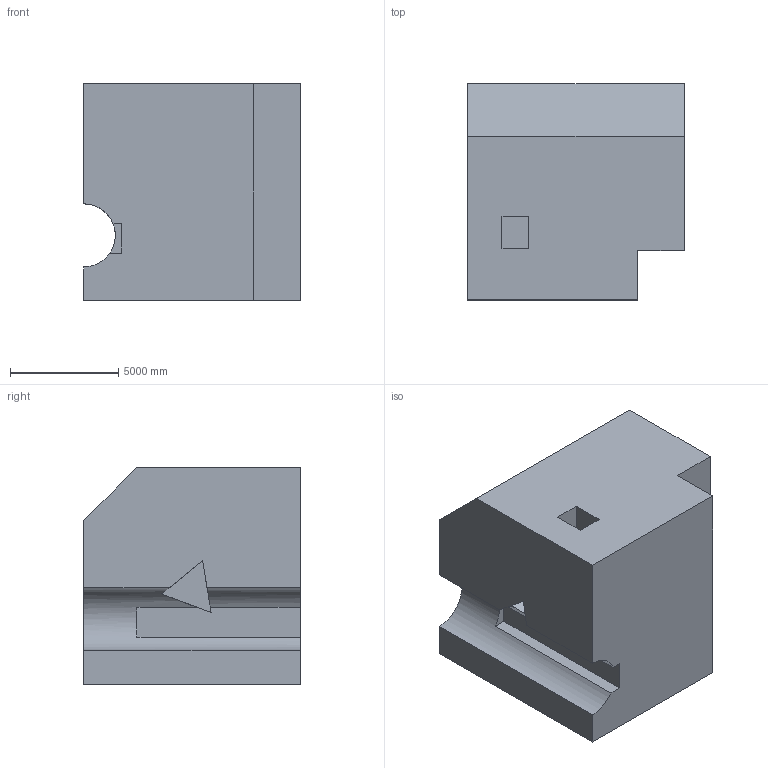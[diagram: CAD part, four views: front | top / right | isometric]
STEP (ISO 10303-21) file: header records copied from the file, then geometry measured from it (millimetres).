
FILE_DESCRIPTION (( 'STEP AP203' ), '1' );
FILE_NAME ('586.STEP', '2022-08-04T14:32:17', ( 'user' ), ( '' ), 'SwSTEP 2.0', 'SolidWorks 2021', '' );
FILE_SCHEMA (( 'CONFIG_CONTROL_DESIGN' ));
Length unit declared in the file: centimetre
Products named in the file (1): 586
Bounding box: 10000 x 10000 x 10000 mm (x, y, z)
Volume: 864443599180.5 mm3; surface area: 640005947.1 mm2
Topology: 1 solids, 1 shells, 26 faces, 69 edges, 46 vertices
Faces by surface type: plane 24, cylinder 2
Entity records: 874 total; most frequent: CARTESIAN_POINT 151, ORIENTED_EDGE 138, DIRECTION 124, EDGE_CURVE 69, LINE 62, VECTOR 62, VERTEX_POINT 46, AXIS2_PLACEMENT_3D 31
